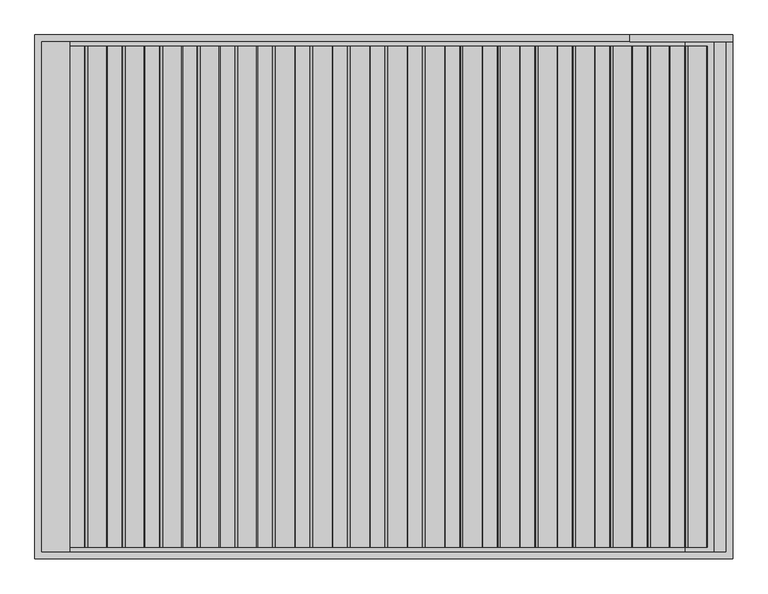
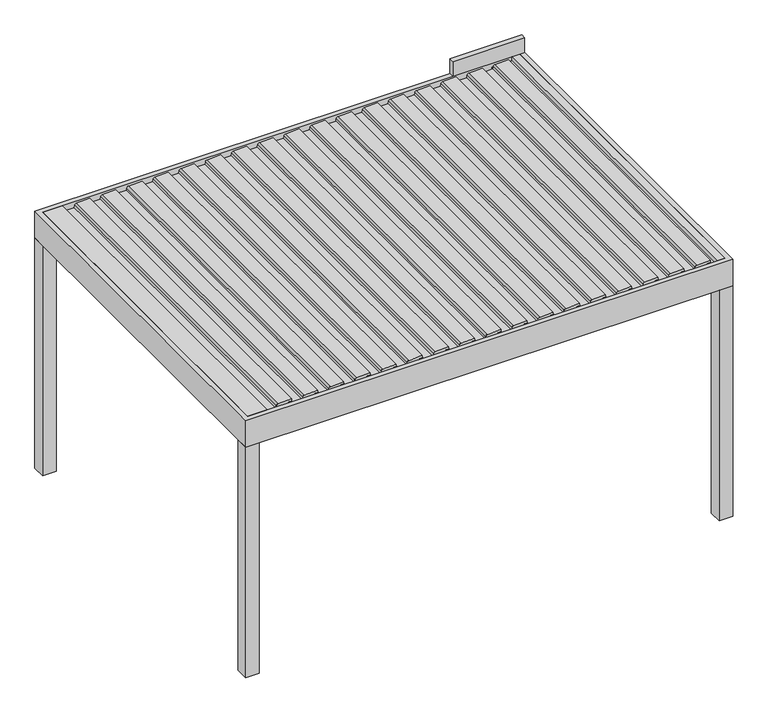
"""IFC4 building model written with IfcOpenShell, lengths in millimetres: proxy geometry, Renson_Algarve_Single : Algarve - Single."""

from ifc_helpers import new_model, si_unit, point, frame, frame_2d, origin, origin_with_axes, place, context, project, spatial, polyline, circle_curve, trimmed, segment, composite_curve, outline, extrude, faceted_brep, source, transform, mapped, element, save


def generic_models_be08a494(model_context):
    return source(origin(), model_context, "Body", "SolidModel", [
        extrude(outline(composite_curve([segment(polyline([(2188.35, 1609.6114167), (2216.01198, 1612.0315264), (2217.3970364, 1640.8667769), (2236.8911096, 1637.4294458), (2231.6075693, 1527.4323309)]), True, "CONTINUOUS"), segment(trimmed(circle_curve(frame_2d((2216.6248435, 1528.1520029)), 15.0), [point((2231.6075693, 1527.4323309))], [point((2219.2295662, 1513.3798866))], False, "CARTESIAN"), True, "CONTINUOUS"), segment(polyline([(2219.2295662, 1513.3798866), (2200.0, 1509.9891952), (2200.0, 1422.2534192), (2217.0788237, 1419.2419618), (2216.3450182, 1403.9649913), (2188.35, 1401.5157446), (2188.35, 1609.6114167)]), True, "CONTINUOUS")], self_intersect=False)), frame((0.0, -1435.0, 0.0), z_axis=(0.0, 1.0, 0.0), x_axis=(0.0, 0.0, 1.0)), (0.0, 0.0, 1.0), 2870.0),
        extrude(outline(composite_curve([segment(polyline([(2188.35, 1394.600612), (2216.01198, 1397.0207216), (2217.3970364, 1425.8559721), (2236.8911096, 1422.418641), (2231.6075693, 1312.4215261)]), True, "CONTINUOUS"), segment(trimmed(circle_curve(frame_2d((2216.6248435, 1313.1411981)), 15.0), [point((2231.6075693, 1312.4215261))], [point((2219.2295662, 1298.3690818))], False, "CARTESIAN"), True, "CONTINUOUS"), segment(polyline([(2219.2295662, 1298.3690818), (2200.0, 1294.9783904), (2200.0, 1207.2426144), (2217.0788237, 1204.231157), (2216.3450182, 1188.9541865), (2188.35, 1186.5049398), (2188.35, 1394.600612)]), True, "CONTINUOUS")], self_intersect=False)), frame((0.0, -1435.0, 0.0), z_axis=(0.0, 1.0, 0.0), x_axis=(0.0, 0.0, 1.0)), (0.0, 0.0, 1.0), 2870.0),
        extrude(outline(composite_curve([segment(polyline([(2188.35, 1179.5898072), (2216.01198, 1182.0099168), (2217.3970364, 1210.8451673), (2236.8911096, 1207.4078362), (2231.6075693, 1097.4107214)]), True, "CONTINUOUS"), segment(trimmed(circle_curve(frame_2d((2216.6248435, 1098.1303933)), 15.0), [point((2231.6075693, 1097.4107214))], [point((2219.2295662, 1083.358277))], False, "CARTESIAN"), True, "CONTINUOUS"), segment(polyline([(2219.2295662, 1083.358277), (2200.0, 1079.9675857), (2200.0, 992.2318096), (2217.0788237, 989.2203522), (2216.3450182, 973.9433817), (2188.35, 971.494135), (2188.35, 1179.5898072)]), True, "CONTINUOUS")], self_intersect=False)), frame((0.0, -1435.0, 0.0), z_axis=(0.0, 1.0, 0.0), x_axis=(0.0, 0.0, 1.0)), (0.0, 0.0, 1.0), 2870.0),
        extrude(outline(composite_curve([segment(polyline([(2188.35, 964.5790024), (2216.01198, 966.999112), (2217.3970364, 995.8343625), (2236.8911096, 992.3970314), (2231.6075693, 882.3999166)]), True, "CONTINUOUS"), segment(trimmed(circle_curve(frame_2d((2216.6248435, 883.1195885)), 15.0), [point((2231.6075693, 882.3999166))], [point((2219.2295662, 868.3474722))], False, "CARTESIAN"), True, "CONTINUOUS"), segment(polyline([(2219.2295662, 868.3474722), (2200.0, 864.9567809), (2200.0, 777.2210048), (2217.0788237, 774.2095474), (2216.3450182, 758.932577), (2188.35, 756.4833302), (2188.35, 964.5790024)]), True, "CONTINUOUS")], self_intersect=False)), frame((0.0, -1435.0, 0.0), z_axis=(0.0, 1.0, 0.0), x_axis=(0.0, 0.0, 1.0)), (0.0, 0.0, 1.0), 2870.0),
        extrude(outline(composite_curve([segment(polyline([(2188.35, 749.5681976), (2216.01198, 751.9883073), (2217.3970364, 780.8235577), (2236.8911096, 777.3862267), (2231.6075693, 667.3891118)]), True, "CONTINUOUS"), segment(trimmed(circle_curve(frame_2d((2216.6248435, 668.1087837)), 15.0), [point((2231.6075693, 667.3891118))], [point((2219.2295662, 653.3366674))], False, "CARTESIAN"), True, "CONTINUOUS"), segment(polyline([(2219.2295662, 653.3366674), (2200.0, 649.9459761), (2200.0, 562.2102001), (2217.0788237, 559.1987426), (2216.3450182, 543.9217722), (2188.35, 541.4725254), (2188.35, 749.5681976)]), True, "CONTINUOUS")], self_intersect=False)), frame((0.0, -1435.0, 0.0), z_axis=(0.0, 1.0, 0.0), x_axis=(0.0, 0.0, 1.0)), (0.0, 0.0, 1.0), 2870.0),
        extrude(outline(composite_curve([segment(polyline([(2188.35, 534.5573928), (2216.01198, 536.9775025), (2217.3970364, 565.8127529), (2236.8911096, 562.3754219), (2231.6075693, 452.378307)]), True, "CONTINUOUS"), segment(trimmed(circle_curve(frame_2d((2216.6248435, 453.0979789)), 15.0), [point((2231.6075693, 452.378307))], [point((2219.2295662, 438.3258627))], False, "CARTESIAN"), True, "CONTINUOUS"), segment(polyline([(2219.2295662, 438.3258627), (2200.0, 434.9351713), (2200.0, 347.1993953), (2217.0788237, 344.1879379), (2216.3450182, 328.9109674), (2188.35, 326.4617207), (2188.35, 534.5573928)]), True, "CONTINUOUS")], self_intersect=False)), frame((0.0, -1435.0, 0.0), z_axis=(0.0, 1.0, 0.0), x_axis=(0.0, 0.0, 1.0)), (0.0, 0.0, 1.0), 2870.0),
        extrude(outline(composite_curve([segment(polyline([(2188.35, 319.546588), (2216.01198, 321.9666977), (2217.3970364, 350.8019482), (2236.8911096, 347.3646171), (2231.6075693, 237.3675022)]), True, "CONTINUOUS"), segment(trimmed(circle_curve(frame_2d((2216.6248435, 238.0871742)), 15.0), [point((2231.6075693, 237.3675022))], [point((2219.2295662, 223.3150579))], False, "CARTESIAN"), True, "CONTINUOUS"), segment(polyline([(2219.2295662, 223.3150579), (2200.0, 219.9243665), (2200.0, 132.1885905), (2217.0788237, 129.1771331), (2216.3450182, 113.9001626), (2188.35, 111.4509159), (2188.35, 319.546588)]), True, "CONTINUOUS")], self_intersect=False)), frame((0.0, -1435.0, 0.0), z_axis=(0.0, 1.0, 0.0), x_axis=(0.0, 0.0, 1.0)), (0.0, 0.0, 1.0), 2870.0),
        extrude(outline(composite_curve([segment(polyline([(2188.35, 104.5357833), (2216.01198, 106.9558929), (2217.3970364, 135.7911434), (2236.8911096, 132.3538123), (2231.6075693, 22.3566975)]), True, "CONTINUOUS"), segment(trimmed(circle_curve(frame_2d((2216.6248435, 23.0763694)), 15.0), [point((2231.6075693, 22.3566975))], [point((2219.2295662, 8.3042531))], False, "CARTESIAN"), True, "CONTINUOUS"), segment(polyline([(2219.2295662, 8.3042531), (2200.0, 4.9135617), (2200.0, -82.8222143), (2217.0788237, -85.8336717), (2216.3450182, -101.1106422), (2188.35, -103.5598889), (2188.35, 104.5357833)]), True, "CONTINUOUS")], self_intersect=False)), frame((0.0, -1435.0, 0.0), z_axis=(0.0, 1.0, 0.0), x_axis=(0.0, 0.0, 1.0)), (0.0, 0.0, 1.0), 2870.0),
        extrude(outline(composite_curve([segment(polyline([(2188.35, -110.4750215), (2216.01198, -108.0549119), (2217.3970364, -79.2196614), (2236.8911096, -82.6569925), (2231.6075693, -192.6541073)]), True, "CONTINUOUS"), segment(trimmed(circle_curve(frame_2d((2216.6248435, -191.9344354)), 15.0), [point((2231.6075693, -192.6541073))], [point((2219.2295662, -206.7065517))], False, "CARTESIAN"), True, "CONTINUOUS"), segment(polyline([(2219.2295662, -206.7065517), (2200.0, -210.097243), (2200.0, -297.8330191), (2217.0788237, -300.8444765), (2216.3450182, -316.121447), (2188.35, -318.5706937), (2188.35, -110.4750215)]), True, "CONTINUOUS")], self_intersect=False)), frame((0.0, -1435.0, 0.0), z_axis=(0.0, 1.0, 0.0), x_axis=(0.0, 0.0, 1.0)), (0.0, 0.0, 1.0), 2870.0),
        extrude(outline(composite_curve([segment(polyline([(2188.35, -325.4858263), (2216.01198, -323.0657166), (2217.3970364, -294.2304662), (2236.8911096, -297.6677973), (2231.6075693, -407.6649121)]), True, "CONTINUOUS"), segment(trimmed(circle_curve(frame_2d((2216.6248435, -406.9452402)), 15.0), [point((2231.6075693, -407.6649121))], [point((2219.2295662, -421.7173565))], False, "CARTESIAN"), True, "CONTINUOUS"), segment(polyline([(2219.2295662, -421.7173565), (2200.0, -425.1080478), (2200.0, -512.8438238), (2217.0788237, -515.8552813), (2216.3450182, -531.1322517), (2188.35, -533.5814985), (2188.35, -325.4858263)]), True, "CONTINUOUS")], self_intersect=False)), frame((0.0, -1435.0, 0.0), z_axis=(0.0, 1.0, 0.0), x_axis=(0.0, 0.0, 1.0)), (0.0, 0.0, 1.0), 2870.0),
        extrude(outline(composite_curve([segment(polyline([(2188.35, -540.4966311), (2216.01198, -538.0765214), (2217.3970364, -509.241271), (2236.8911096, -512.678602), (2231.6075693, -622.6757169)]), True, "CONTINUOUS"), segment(trimmed(circle_curve(frame_2d((2216.6248435, -621.956045)), 15.0), [point((2231.6075693, -622.6757169))], [point((2219.2295662, -636.7281613))], False, "CARTESIAN"), True, "CONTINUOUS"), segment(polyline([(2219.2295662, -636.7281613), (2200.0, -640.1188526), (2200.0, -727.8546286), (2217.0788237, -730.866086), (2216.3450182, -746.1430565), (2188.35, -748.5923032), (2188.35, -540.4966311)]), True, "CONTINUOUS")], self_intersect=False)), frame((0.0, -1435.0, 0.0), z_axis=(0.0, 1.0, 0.0), x_axis=(0.0, 0.0, 1.0)), (0.0, 0.0, 1.0), 2870.0),
        extrude(outline(composite_curve([segment(polyline([(2188.35, -755.5074359), (2216.01198, -753.0873262), (2217.3970364, -724.2520757), (2236.8911096, -727.6894068), (2231.6075693, -837.6865217)]), True, "CONTINUOUS"), segment(trimmed(circle_curve(frame_2d((2216.6248435, -836.9668497)), 15.0), [point((2231.6075693, -837.6865217))], [point((2219.2295662, -851.738966))], False, "CARTESIAN"), True, "CONTINUOUS"), segment(polyline([(2219.2295662, -851.738966), (2200.0, -855.1296574), (2200.0, -942.8654334), (2217.0788237, -945.8768908), (2216.3450182, -961.1538613), (2188.35, -963.603108), (2188.35, -755.5074359)]), True, "CONTINUOUS")], self_intersect=False)), frame((0.0, -1435.0, 0.0), z_axis=(0.0, 1.0, 0.0), x_axis=(0.0, 0.0, 1.0)), (0.0, 0.0, 1.0), 2870.0),
        extrude(outline(composite_curve([segment(polyline([(2188.35, -970.5182406), (2216.01198, -968.098131), (2217.3970364, -939.2628805), (2236.8911096, -942.7002116), (2231.6075693, -1052.6973265)]), True, "CONTINUOUS"), segment(trimmed(circle_curve(frame_2d((2216.6248435, -1051.9776545)), 15.0), [point((2231.6075693, -1052.6973265))], [point((2219.2295662, -1066.7497708))], False, "CARTESIAN"), True, "CONTINUOUS"), segment(polyline([(2219.2295662, -1066.7497708), (2200.0, -1070.1404622), (2200.0, -1157.8762382), (2217.0788237, -1160.8876956), (2216.3450182, -1176.1646661), (2188.35, -1178.6139128), (2188.35, -970.5182406)]), True, "CONTINUOUS")], self_intersect=False)), frame((0.0, -1435.0, 0.0), z_axis=(0.0, 1.0, 0.0), x_axis=(0.0, 0.0, 1.0)), (0.0, 0.0, 1.0), 2870.0),
        extrude(outline(composite_curve([segment(polyline([(2188.35, -1185.5290454), (2216.01198, -1183.1089358), (2217.3970364, -1154.2736853), (2236.8911096, -1157.7110164), (2231.6075693, -1267.7081312)]), True, "CONTINUOUS"), segment(trimmed(circle_curve(frame_2d((2216.6248435, -1266.9884593)), 15.0), [point((2231.6075693, -1267.7081312))], [point((2219.2295662, -1281.7605756))], False, "CARTESIAN"), True, "CONTINUOUS"), segment(polyline([(2219.2295662, -1281.7605756), (2200.0, -1285.1512669), (2200.0, -1372.887043), (2217.0788237, -1375.8985004), (2216.3450182, -1391.1754709), (2188.35, -1393.6247176), (2188.35, -1185.5290454)]), True, "CONTINUOUS")], self_intersect=False)), frame((0.0, -1435.0, 0.0), z_axis=(0.0, 1.0, 0.0), x_axis=(0.0, 0.0, 1.0)), (0.0, 0.0, 1.0), 2870.0),
        extrude(outline(composite_curve([segment(polyline([(2188.35, -1400.5398502), (2216.01198, -1398.1197405), (2217.3970364, -1369.2844901), (2236.8911096, -1372.7218212), (2231.6075693, -1482.718936)]), True, "CONTINUOUS"), segment(trimmed(circle_curve(frame_2d((2216.6248435, -1481.9992641)), 15.0), [point((2231.6075693, -1482.718936))], [point((2219.2295662, -1496.7713804))], False, "CARTESIAN"), True, "CONTINUOUS"), segment(polyline([(2219.2295662, -1496.7713804), (2200.0, -1500.1620717), (2200.0, -1587.8978478), (2217.0788237, -1590.9093052), (2216.3450182, -1606.1862756), (2188.35, -1608.6355224), (2188.35, -1400.5398502)]), True, "CONTINUOUS")], self_intersect=False)), frame((0.0, -1435.0, 0.0), z_axis=(0.0, 1.0, 0.0), x_axis=(0.0, 0.0, 1.0)), (0.0, 0.0, 1.0), 2870.0),
        extrude(outline(composite_curve([segment(polyline([(2188.35, 1824.6222215), (2216.01198, 1827.0423312), (2217.3970364, 1855.8775816), (2236.8911096, 1852.4402506), (2231.6075693, 1742.4431357)]), True, "CONTINUOUS"), segment(trimmed(circle_curve(frame_2d((2216.6248435, 1743.1628076)), 15.0), [point((2231.6075693, 1742.4431357))], [point((2219.2295662, 1728.3906913))], False, "CARTESIAN"), True, "CONTINUOUS"), segment(polyline([(2219.2295662, 1728.3906913), (2200.0, 1725.0), (2200.0, 1637.264224), (2217.0788237, 1634.2527666), (2216.3450182, 1618.9757961), (2188.35, 1616.5265494), (2188.35, 1824.6222215)]), True, "CONTINUOUS")], self_intersect=False)), frame((0.0, -1435.0, 0.0), z_axis=(0.0, 1.0, 0.0), x_axis=(0.0, 0.0, 1.0)), (0.0, 0.0, 1.0), 2870.0),
        extrude(outline(composite_curve([segment(polyline([(2188.35, -1615.550655), (2216.01198, -1613.1305453), (2217.3970364, -1584.2952949), (2236.8911096, -1587.7326259), (2231.6075693, -1697.7297408)]), True, "CONTINUOUS"), segment(trimmed(circle_curve(frame_2d((2216.6248435, -1697.0100689)), 15.0), [point((2231.6075693, -1697.7297408))], [point((2219.2295662, -1711.7821852))], False, "CARTESIAN"), True, "CONTINUOUS"), segment(polyline([(2219.2295662, -1711.7821852), (2200.0, -1715.1728765), (2200.0, -1802.9086525), (2217.0788237, -1805.9201099), (2216.3450182, -1821.1970804), (2188.35, -1823.6463271), (2188.35, -1615.550655)]), True, "CONTINUOUS")], self_intersect=False)), frame((0.0, -1435.0, 0.0), z_axis=(0.0, 1.0, 0.0), x_axis=(0.0, 0.0, 1.0)), (0.0, 0.0, 1.0), 2870.0),
        extrude(outline(polyline([(2168.0, 1960.0), (2230.0, 1960.0), (2230.0, 1896.0), (2198.0, 1896.0), (2198.0, 1730.0), (2168.0, 1730.0), (2168.0, 1960.0)])), frame((0.0, -1460.0, 0.0), z_axis=(0.0, 1.0, 0.0), x_axis=(0.0, 0.0, 1.0)), (0.0, 0.0, 1.0), 2920.0),
        extrude(outline(polyline([(2230.0, -1800.0), (2230.0, -1960.0), (2186.0, -1960.0), (2186.0, -1827.3193336), (2219.1716603, -1824.4171894), (2220.344502, -1800.0), (2230.0, -1800.0)])), frame((0.0, -1460.0, 0.0), z_axis=(0.0, 1.0, 0.0), x_axis=(0.0, 0.0, 1.0)), (0.0, 0.0, 1.0), 2920.0),
        faceted_brep([(1890.0, 1390.0, 2057.0), (1890.0, 1390.0, 2000.0), (1890.0, -1390.0, 2000.0), (1890.0, -1390.0, 2057.0), (2000.0, 1500.0, 2000.0), (2000.0, 1500.0, 2230.0), (2000.0, -1500.0, 2230.0), (2000.0, -1500.0, 2000.0), (1960.0, 1460.0, 2230.0), (1960.0, 1460.0, 2057.0), (1960.0, -1460.0, 2057.0), (1960.0, -1460.0, 2230.0), (-1890.0, -1390.0, 2000.0), (-1890.0, -1390.0, 2057.0), (-2000.0, -1500.0, 2230.0), (-2000.0, -1500.0, 2000.0), (-1960.0, -1460.0, 2057.0), (-1960.0, -1460.0, 2230.0), (-1890.0, 1390.0, 2000.0), (-1890.0, 1390.0, 2057.0), (-2000.0, 1500.0, 2230.0), (-2000.0, 1500.0, 2000.0), (-1960.0, 1460.0, 2057.0), (-1960.0, 1460.0, 2230.0)], [[[0, 1, 2, 3]], [[4, 5, 6, 7]], [[8, 9, 10, 11]], [[3, 2, 12, 13]], [[7, 6, 14, 15]], [[11, 10, 16, 17]], [[13, 12, 18, 19]], [[15, 14, 20, 21]], [[17, 16, 22, 23]], [[9, 22, 16, 10], [3, 13, 19, 0]], [[19, 18, 1, 0]], [[7, 15, 21, 4], [1, 18, 12, 2]], [[21, 20, 5, 4]], [[5, 20, 14, 6], [11, 17, 23, 8]], [[23, 22, 9, 8]]]),
        extrude(outline(polyline([(2000.0, 1500.0), (2000.0, 1390.0), (1890.0, 1390.0), (1890.0, 1500.0), (2000.0, 1500.0)])), origin_with_axes(), (0.0, 0.0, 1.0), 2000.0),
        extrude(outline(polyline([(2000.0, -1390.0), (2000.0, -1500.0), (1890.0, -1500.0), (1890.0, -1390.0), (2000.0, -1390.0)])), origin_with_axes(), (0.0, 0.0, 1.0), 2000.0),
        extrude(outline(polyline([(-1890.0, -1390.0), (-1890.0, -1500.0), (-2000.0, -1500.0), (-2000.0, -1390.0), (-1890.0, -1390.0)])), origin_with_axes(), (0.0, 0.0, 1.0), 2000.0),
        extrude(outline(polyline([(-1890.0, 1500.0), (-1890.0, 1390.0), (-2000.0, 1390.0), (-2000.0, 1500.0), (-1890.0, 1500.0)])), origin_with_axes(), (0.0, 0.0, 1.0), 2000.0),
        extrude(outline(polyline([(2000.0, 1500.0), (2000.0, 1460.0), (1410.0, 1460.0), (1410.0, 1500.0), (2000.0, 1500.0)])), frame((0.0, 0.0, 2230.0), z_axis=(0.0, 0.0, 1.0), x_axis=(1.0, 0.0, 0.0)), (0.0, 0.0, 1.0), 130.0),
    ])


if __name__ == "__main__":
    model = new_model("IFC4")
    model_context = context("Model", 3, world=origin())
    ifc_project = project(units=[si_unit("LENGTHUNIT", "METRE", prefix="MILLI")], contexts=[model_context])
    site = spatial("IfcSite", under=ifc_project)
    building = spatial("IfcBuilding", under=site)
    placement = place(None, origin())
    generic_models_shape = generic_models_be08a494(model_context)
    element("IfcBuildingElementProxy", 1, Name="Renson_Algarve_Single : Algarve - Single", ObjectType="Renson_Algarve_Single : Algarve - Single", at=placement, inside=building, context=model_context, shape_type="MappedRepresentation", body=[
        mapped(generic_models_shape, transform((0.0, 0.0, 0.0), x_axis=(1.0, 0.0, 0.0), y_axis=(0.0, 1.0, 0.0), z_axis=(0.0, 0.0, 1.0))),
    ])
    save(model, "model.ifc")
